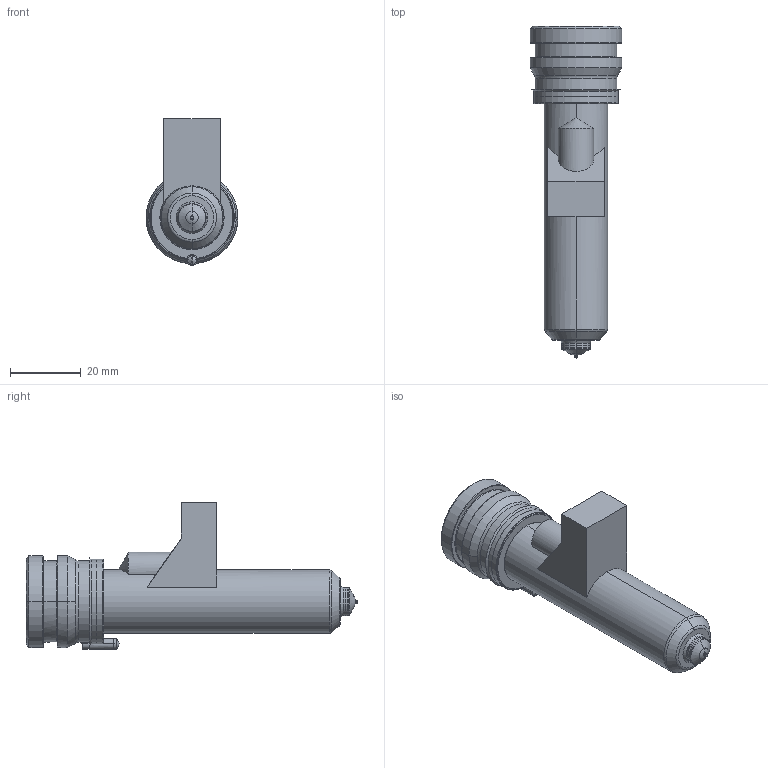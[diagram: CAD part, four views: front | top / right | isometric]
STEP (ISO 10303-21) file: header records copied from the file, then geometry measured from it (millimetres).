
FILE_DESCRIPTION((''),'2;1');
FILE_NAME('MPN-08-24-VSA8-076-M','2026-02-05T13:34:03',('UPTIO'),('Thermoplay S.p.A.'),'CREO PARAMETRIC BY PTC INC, 2023494','CREO PARAMETRIC BY PTC INC, 2023494','');
FILE_SCHEMA(('CONFIG_CONTROL_DESIGN','SHAPE_APPEARANCE_LAYERS_GROUPS'));
Length unit declared in the file: millimetre
Products named in the file (1): MPN-08-24-VSA8-076-M
Bounding box: 26 x 94 x 41.5 mm (x, y, z)
Volume: 19418.8 mm3; surface area: 25047 mm2
Topology: 2 solids, 3 shells, 527 faces, 1374 edges, 846 vertices
Faces by surface type: cylinder 176, plane 143, bspline 75, torus 60, cone 58, sphere 9, extrusion 6
Entity records: 27792 total; most frequent: CARTESIAN_POINT 12313, ORIENTED_EDGE 2730, DIRECTION 2497, EDGE_CURVE 1365, AXIS2_PLACEMENT_3D 975, VERTEX_POINT 846, EDGE_LOOP 557, VECTOR 547
